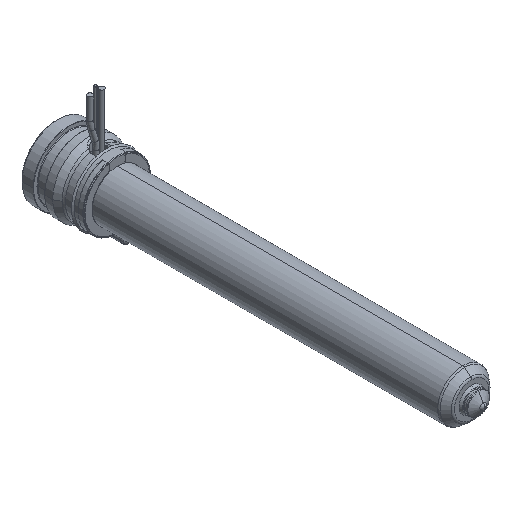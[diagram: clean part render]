
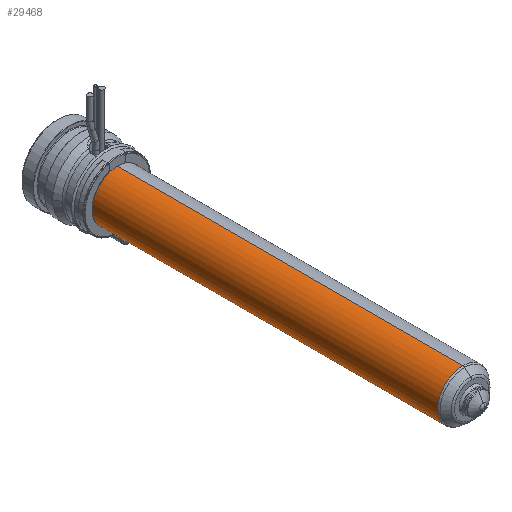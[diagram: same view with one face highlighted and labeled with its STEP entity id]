
A CAD part, isometric view. The second image highlights one B-rep face of the part: STEP entity #29468.
In plain terms, the highlighted cylindrical face has radius 9 mm (diameter 18 mm), a partial arc.
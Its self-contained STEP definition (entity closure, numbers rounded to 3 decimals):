
#28872=CARTESIAN_POINT('',(0.,-145.836,0.));
#28873=DIRECTION('',(0.,-1.,0.));
#28874=DIRECTION('',(0.,0.,1.));
#28875=AXIS2_PLACEMENT_3D('',#28872,#28873,#28874);
#28877=CARTESIAN_POINT('',(0.,-22.,0.));
#28878=DIRECTION('',(0.,1.,0.));
#28879=DIRECTION('',(0.,0.,-1.));
#28880=AXIS2_PLACEMENT_3D('',#28877,#28878,#28879);
#28882=DIRECTION('',(0.,1.,0.));
#28883=VECTOR('',#28882,123.836);
#28884=CARTESIAN_POINT('',(0.,-145.836,9.));
#28885=LINE('',#28884,#28883);
#28891=DIRECTION('',(0.,1.,0.));
#28892=VECTOR('',#28891,123.836);
#28893=CARTESIAN_POINT('',(0.,-145.836,-9.));
#28894=LINE('',#28893,#28892);
#29011=CARTESIAN_POINT('',(0.,-145.836,9.));
#29012=CARTESIAN_POINT('',(0.,-22.,9.));
#29013=VERTEX_POINT('',#29011);
#29014=VERTEX_POINT('',#29012);
#29015=CARTESIAN_POINT('',(0.,-145.836,-9.));
#29016=CARTESIAN_POINT('',(0.,-22.,-9.));
#29017=VERTEX_POINT('',#29015);
#29018=VERTEX_POINT('',#29016);
#29454=CARTESIAN_POINT('',(0.,-11.2,0.));
#29455=DIRECTION('',(0.,-1.,0.));
#29456=DIRECTION('',(0.,0.,1.));
#29457=AXIS2_PLACEMENT_3D('',#29454,#29455,#29456);
#29458=CYLINDRICAL_SURFACE('',#29457,9.);
#29460=ORIENTED_EDGE('',*,*,#29459,.F.);
#29461=ORIENTED_EDGE('',*,*,#29442,.T.);
#29463=ORIENTED_EDGE('',*,*,#29462,.T.);
#29465=ORIENTED_EDGE('',*,*,#29464,.T.);
#29466=EDGE_LOOP('',(#29460,#29461,#29463,#29465));
#29467=FACE_OUTER_BOUND('',#29466,.F.);
#29468=ADVANCED_FACE('',(#29467),#29458,.T.);
#28876=CIRCLE('',#28875,9.);
#28881=CIRCLE('',#28880,9.);
#29442=EDGE_CURVE('',#29013,#29017,#28876,.T.);
#29459=EDGE_CURVE('',#29013,#29014,#28885,.T.);
#29462=EDGE_CURVE('',#29017,#29018,#28894,.T.);
#29464=EDGE_CURVE('',#29018,#29014,#28881,.T.);
